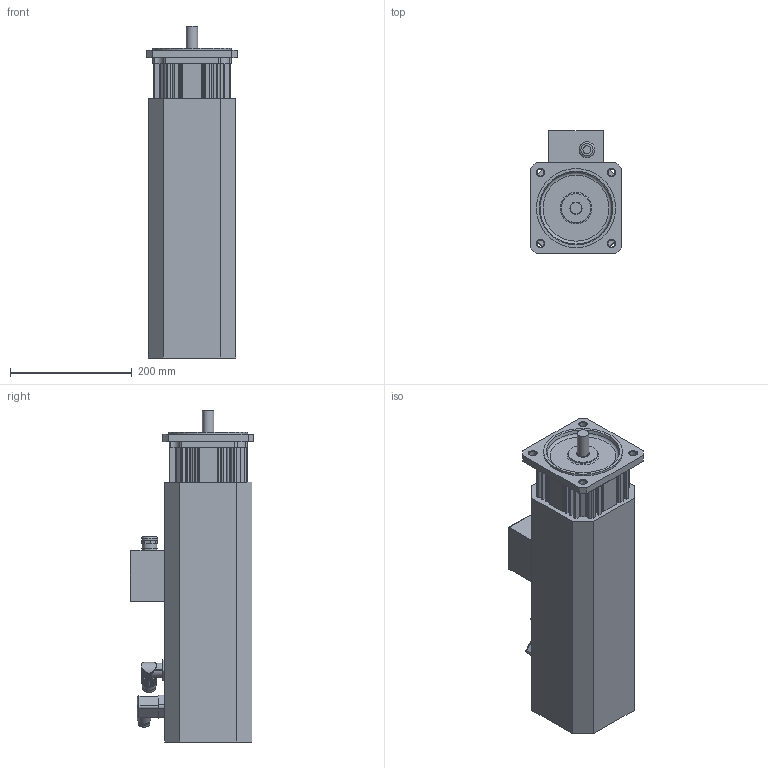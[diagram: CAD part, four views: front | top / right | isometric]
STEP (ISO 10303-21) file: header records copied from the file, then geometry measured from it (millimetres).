
FILE_DESCRIPTION(/* description */ (''),/* implementation_level */ '2;1');
FILE_NAME(/* name */ 'KSA6416_MC_FS_Ix',/* time_stamp */ '2009-02-26T15:59:17+01:00',/* author */ (''),/* organization */ (''),/* preprocessor_version */ 'ST-DEVELOPER v8',/* originating_system */ 'UNIGRAPHICS SOLUTIONS - UNIGRAPHICS 18.0',/* authorisation */ '');
FILE_SCHEMA (('AUTOMOTIVE_DESIGN { 1 2 10303 214 0 1 1 1 }'));
Length unit declared in the file: millimetre
Products named in the file (8): 0280391350_0; Winkelflanschdose_0; 014146_0; 014145_0; LagerschAS_0; 089106X_0; Klemmenkasten_0; KSA648_MC_FS_Ix_0
Assembly tree (7 placements, depth 3):
  KSA648_MC_FS_Ix_0
    089106X_0
    LagerschAS_0
    Klemmenkasten_0
      0280391350_0
    014145_0
    014146_0
    Winkelflanschdose_0
Bounding box: 149 x 202.35 x 546 mm (x, y, z)
Volume: 9699639.9 mm3; surface area: 564222.8 mm2
Topology: 8 solids, 8 shells, 762 faces, 2109 edges, 1383 vertices
Faces by surface type: cylinder 447, plane 283, cone 16, sphere 8, torus 4, bspline 4
Full cylindrical faces by diameter (mm): 3.2 x1, 3.5 x4, 4.5 x1, 5 x2, 6.5 x4, 13 x2, 16 x1, 17 x1, 18 x1, 19 x1, 20 x3, 21 x1, 21.5 x1, 22.5 x1, 23 x2, 24 x1, 26 x1, 48 x1, 119.7 x2, 122 x1, 130 x1
Entity records: 24850 total; most frequent: CARTESIAN_POINT 4930, DIRECTION 4230, ORIENTED_EDGE 4082, EDGE_CURVE 2041, AXIS2_PLACEMENT_3D 1579, VERTEX_POINT 1372, LINE 1072, VECTOR 1072
